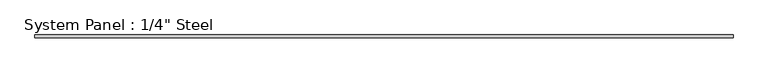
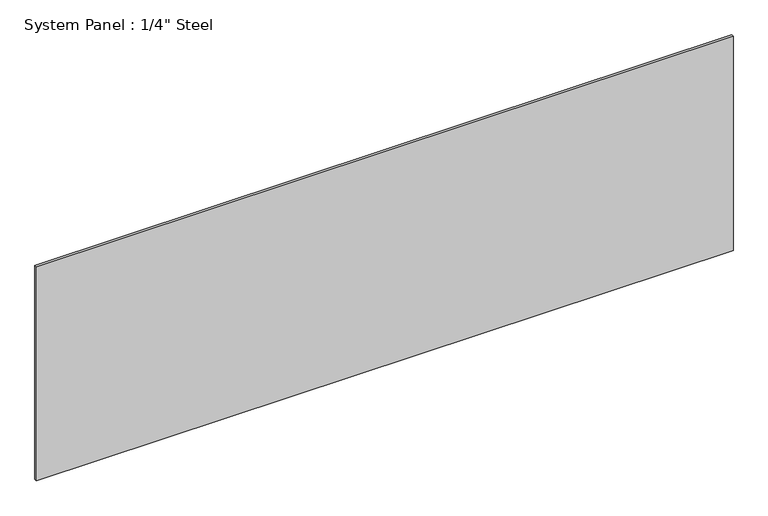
"""IFC4 building model written with IfcOpenShell, lengths in millimetres: plate geometry."""

from ifc_helpers import new_model, si_unit, origin, origin_with_axes, place, context, project, spatial, polyline, outline, extrude, source, transform, mapped, element, save


def plate_46c0a22a(model_context):
    return source(origin(), model_context, "Body", "SweptSolid", [
        extrude(outline(polyline([(820.0754219, -3.175), (-820.0754219, -3.175), (-820.0754219, 3.175), (820.0754219, 3.175), (820.0754219, -3.175)])), origin_with_axes(), (0.0, 0.0, 1.0), 533.4),
    ])


if __name__ == "__main__":
    model = new_model("IFC4")
    model_context = context("Model", 3, world=origin())
    ifc_project = project(units=[si_unit("LENGTHUNIT", "METRE", prefix="MILLI")], contexts=[model_context])
    site = spatial("IfcSite", under=ifc_project)
    building = spatial("IfcBuilding", under=site)
    placement = place(None, origin())
    plate_shape = plate_46c0a22a(model_context)
    element("IfcPlate", 1, ObjectType="System Panel : 1/4\" Steel", at=placement, inside=building, context=model_context, shape_type="MappedRepresentation", body=[
        mapped(plate_shape, transform((0.0, 0.0, 0.0), x_axis=(1.0, 0.0, 0.0), y_axis=(0.0, 1.0, 0.0), z_axis=(0.0, 0.0, 1.0))),
    ])
    save(model, "model.ifc")
